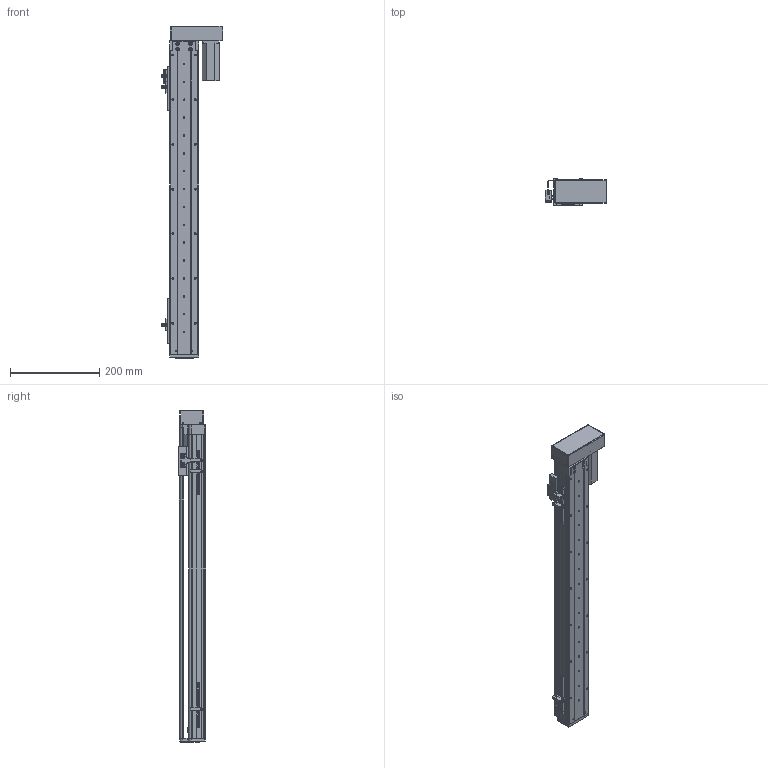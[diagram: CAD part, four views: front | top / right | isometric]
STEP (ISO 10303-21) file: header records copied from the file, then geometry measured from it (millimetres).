
FILE_DESCRIPTION (( 'STEP AP203' ), '1' );
FILE_NAME ('RY60-L1210-300-RK.SLDASM_550.step', '2021-02-20T06:52:41', ( '盈信电脑' ), ( '东莞市道滘镇水果街19号' ), 'SwSTEP 2.0', 'SolidWorks 2012', '' );
FILE_SCHEMA (( 'CONFIG_CONTROL_DESIGN' ));
Length unit declared in the file: millimetre
Products named in the file (13): 672嫖萇羲壽假蚾釱; 覜茼ん672; RY60-L1210-300-RK.SLDASM_550; RY60酘衵殏萇儂欶; 侂狟100W; RY80俋离覜茼え; RY60左右折电机安装板; RY60转折电机端支撑座; RY60綴裔啣; RY60-300倰第裔啣-RK_550; 滅袉蝶18-10; RY60臏賑輸; RY60-300倰第菁釱-RK_550
Assembly tree (18 placements, depth 2):
  RY60-L1210-300-RK.SLDASM_550
    RY60-300倰第菁釱-RK_550
    RY60臏賑輸
    RY60-300倰第裔啣-RK_550
    RY60綴裔啣
    滅袉蝶18-10  x4
    RY60转折电机端支撑座
    RY60左右折电机安装板
    侂狟100W
    RY60酘衵殏萇儂欶
    RY80俋离覜茼え
    672嫖萇羲壽假蚾釱  x2
    覜茼ん672  x3
Bounding box: 137.9 x 61 x 743 mm (x, y, z)
Volume: 963311.2 mm3; surface area: 488407.2 mm2
Topology: 18 solids, 18 shells, 1453 faces, 4067 edges, 2606 vertices
Faces by surface type: plane 721, cylinder 607, cone 108, bspline 17
Entity records: 43590 total; most frequent: CARTESIAN_POINT 10403, ORIENTED_EDGE 6702, DIRECTION 6493, EDGE_CURVE 3351, AXIS2_PLACEMENT_3D 2226, VERTEX_POINT 2186, LINE 2041, VECTOR 2041
